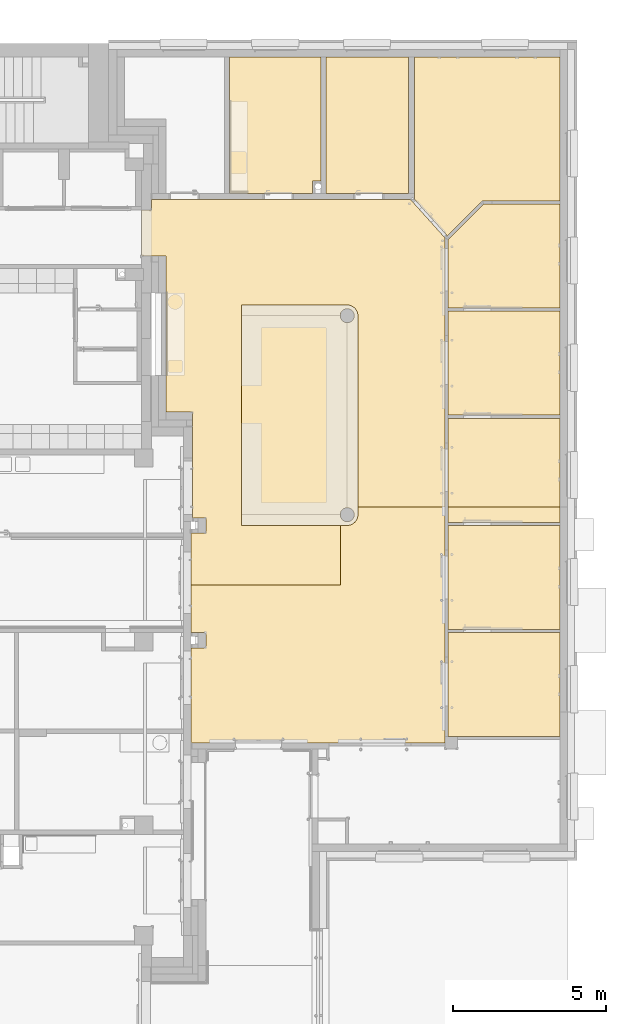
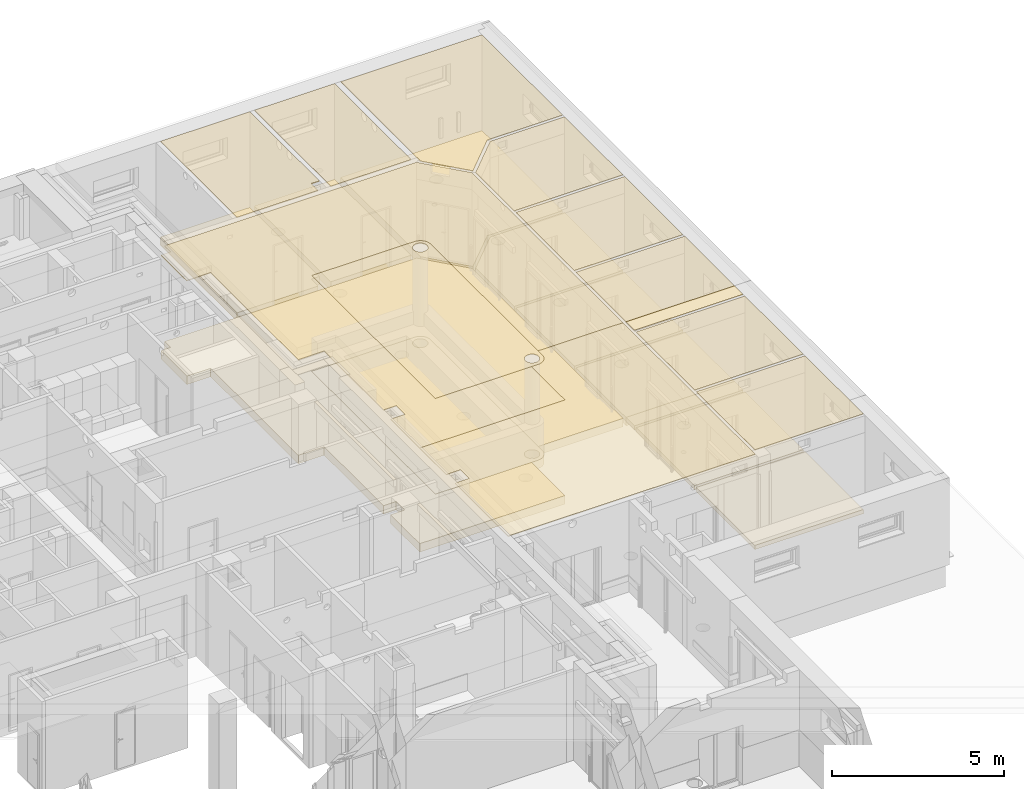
# One storey, part 131 of 140: 23 coverings.
"""IFC4 building model written with IfcOpenShell, lengths in metres."""

from ifc_helpers import new_model, entity, si_unit, converted_unit, derived_unit, frame, frame_2d, origin, origin_with_axes, place, context, subcontext, project, spatial, polyline, rectangle, outline, extrude, material, layer, layer_set, layer_usage, element, save


model = new_model("IFC4")

# Units and contexts
model_context = context("Model", 3, precision=1e-05, world=origin())
body_context = subcontext(model_context, "Body", "Model", "MODEL_VIEW")
ifc_project = project(units=[si_unit("LENGTHUNIT", "METRE"), si_unit("AREAUNIT", "SQUARE_METRE"), si_unit("VOLUMEUNIT", "CUBIC_METRE"), si_unit("MASSUNIT", "GRAM", prefix="KILO"), converted_unit("PLANEANGLEUNIT", "DEGREE", entity("IfcPlaneAngleMeasure", 0.0174532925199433), si_unit("PLANEANGLEUNIT", "RADIAN"), dimensions=[0, 0, 0, 0, 0, 0, 0]), derived_unit("THERMALTRANSMITTANCEUNIT", [(si_unit("POWERUNIT", "WATT"), 1), (si_unit("THERMODYNAMICTEMPERATUREUNIT", "KELVIN"), -1), (si_unit("LENGTHUNIT", "METRE"), -2)]), derived_unit("VOLUMETRICFLOWRATEUNIT", [(si_unit("LENGTHUNIT", "METRE"), 3), (converted_unit("TIMEUNIT", "hour", entity("IfcTimeMeasure", 3600.0), si_unit("TIMEUNIT", "SECOND"), dimensions=[0, 0, 1, 0, 0, 0, 0]), -1), (si_unit("LENGTHUNIT", "METRE"), -1)])], contexts=[model_context])

# Site, building, storey, space
site_placement = place(None, origin())
site = spatial("IfcSite", under=ifc_project, at=site_placement, Name="3. ASŘ", CompositionType="ELEMENT")
building_placement = place(site_placement, origin())
building = spatial("IfcBuilding", under=site, at=building_placement, Name="Pavilon C", CompositionType="ELEMENT")
storey_placement = place(building_placement, origin())
storey = spatial("IfcBuildingStorey", under=building, at=storey_placement, Name="Půdorys 1.NP", CompositionType="ELEMENT", Elevation=0.0)
space_1_placement = place(storey_placement, frame((51.5, 9.89999999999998, -0.15)))
space_1 = spatial("IfcSpace", under=storey, at=space_1_placement, Name="1.08", CompositionType="ELEMENT")

# Covering
ifc_material_1 = material(Name="RASTR 3")
ifc_layer_1 = layer(ifc_material_1, 0.03)
ifc_layer_set_1 = layer_set([ifc_layer_1])
ifc_layer_usage_1 = layer_usage(ifc_layer_set_1, "AXIS3", "POSITIVE", 0.0)
covering_1_placement = place(space_1_placement, frame((0.0, 1.81898940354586e-15, 3.55)))
element("IfcCovering", 1, at=covering_1_placement, inside=space_1, material=ifc_layer_usage_1, PredefinedType="CEILING", context=body_context, shape_type="SweptSolid", body=[
    extrude(outline(polyline([(0.0, 2.54999999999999), (4.87888830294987, 2.54999999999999), (4.87888830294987, 0.599999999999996), (5.09999999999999, 0.599999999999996), (5.12388484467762, 0.599184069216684), (5.14765832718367, 0.596740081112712), (5.17120960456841, 0.592679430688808), (5.19442886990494, 0.587021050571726), (5.21720786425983, 0.579791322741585), (5.23944038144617, 0.571023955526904), (5.26102276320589, 0.560759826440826), (5.28185438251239, 0.549046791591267), (5.30183811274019, 0.535939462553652), (5.3208807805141, 0.521498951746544), (5.33889360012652, 0.505792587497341), (5.35579258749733, 0.488893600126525), (5.37149895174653, 0.470880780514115), (5.38593946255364, 0.451838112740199), (5.39904679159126, 0.431854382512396), (5.41075982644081, 0.4110227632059), (5.42102395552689, 0.38944038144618), (5.42979132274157, 0.367207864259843), (5.43702105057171, 0.344428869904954), (5.4426794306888, 0.321209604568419), (5.4467400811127, 0.297658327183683), (5.44918406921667, 0.273884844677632), (5.44999999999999, 0.249999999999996), (5.44999999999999, 0.0), (8.29999999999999, 0.0), (8.29999999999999, 7.7), (0.0, 7.7), (0.0, 4.59999999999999), (0.48, 4.59999999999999), (0.48, 4.09999999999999), (0.0, 4.09999999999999), (0.0, 2.54999999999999)])), frame((0.0, 7.7, 0.0), z_axis=(0.0, 0.0, -1.0), x_axis=(1.0, 0.0, 0.0)), (0.0, 0.0, 1.0), 0.03),
])

# Space
space_2_placement = place(storey_placement, frame((53.15, 17.0, -0.3)))
space_2 = spatial("IfcSpace", under=storey, at=space_2_placement, Name="1.09", CompositionType="ELEMENT")

# Coverings
ifc_material_2 = material()
ifc_layer_2 = layer(ifc_material_2, 0.295)
ifc_material_3 = material(Name="ELEKTROSTATICKÝ VINYL")
ifc_layer_3 = layer(ifc_material_3, 0.005)
ifc_layer_set_2 = layer_set([ifc_layer_2, ifc_layer_3])
ifc_layer_usage_2 = layer_usage(ifc_layer_set_2, "AXIS3", "POSITIVE", 0.0)
covering_2_placement = place(space_2_placement, origin())
element("IfcCovering", 2, at=covering_2_placement, inside=space_2, material=ifc_layer_usage_2, PredefinedType="FLOORING", context=body_context, shape_type="SweptSolid", body=[
    extrude(outline(polyline([(3.52120960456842, 0.00732056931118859), (3.54442886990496, 0.0129789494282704), (3.56720786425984, 0.0202086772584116), (3.58944038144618, 0.0289760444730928), (3.6110227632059, 0.0392401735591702), (3.6318543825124, 0.0509532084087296), (3.6518381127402, 0.0640605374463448), (3.67088078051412, 0.0785010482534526), (3.68889360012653, 0.0942074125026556), (3.70579258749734, 0.111106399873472), (3.72149895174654, 0.129119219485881), (3.73593946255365, 0.148161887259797), (3.74904679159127, 0.1681456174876), (3.76075982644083, 0.188977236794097), (3.77102395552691, 0.210559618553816), (3.77979132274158, 0.232792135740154), (3.78702105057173, 0.255571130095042), (3.79267943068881, 0.278790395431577), (3.79674008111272, 0.302341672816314), (3.79918406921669, 0.326115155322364), (3.8, 0.35), (3.8, 6.85), (3.79918406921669, 6.87388484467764), (3.79674008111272, 6.89765832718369), (3.79267943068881, 6.92120960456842), (3.78702105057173, 6.94442886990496), (3.77979132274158, 6.96720786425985), (3.77102395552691, 6.98944038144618), (3.76075982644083, 7.0110227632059), (3.74904679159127, 7.0318543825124), (3.73593946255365, 7.0518381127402), (3.72149895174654, 7.07088078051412), (3.70579258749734, 7.08889360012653), (3.68889360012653, 7.10579258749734), (3.67088078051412, 7.12149895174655), (3.6518381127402, 7.13593946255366), (3.6318543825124, 7.14904679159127), (3.6110227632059, 7.16075982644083), (3.58944038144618, 7.17102395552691), (3.56720786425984, 7.17979132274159), (3.54442886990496, 7.18702105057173), (3.52120960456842, 7.19267943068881), (3.49765832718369, 7.19674008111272), (3.47388484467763, 7.19918406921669), (3.45, 7.2), (0.0, 7.2), (0.0, 7.27595761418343e-15), (3.45, 0.0), (3.47388484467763, 0.000815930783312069), (3.49765832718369, 0.00325991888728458), (3.52120960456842, 0.00732056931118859)]), holes=[polyline([(3.24556191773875, 6.75466895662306), (3.23211372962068, 6.79161754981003), (3.22528590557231, 6.83034006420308), (3.22528590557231, 6.86965993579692), (3.23211372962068, 6.90838245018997), (3.24556191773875, 6.94533104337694), (3.26522185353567, 6.97938305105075), (3.29049617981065, 7.00950382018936), (3.32061694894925, 7.03477814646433), (3.35466895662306, 7.05443808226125), (3.39161754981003, 7.06788627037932), (3.43034006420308, 7.07471409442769), (3.46965993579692, 7.07471409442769), (3.50838245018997, 7.06788627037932), (3.54533104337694, 7.05443808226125), (3.57938305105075, 7.03477814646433), (3.60950382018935, 7.00950382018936), (3.63477814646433, 6.97938305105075), (3.65443808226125, 6.94533104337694), (3.66788627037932, 6.90838245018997), (3.67471409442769, 6.86965993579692), (3.67471409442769, 6.83034006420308), (3.66788627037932, 6.79161754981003), (3.65443808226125, 6.75466895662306), (3.63477814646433, 6.72061694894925), (3.60950382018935, 6.69049617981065), (3.57938305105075, 6.66522185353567), (3.54533104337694, 6.64556191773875), (3.50838245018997, 6.63211372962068), (3.46965993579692, 6.62528590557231), (3.43034006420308, 6.62528590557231), (3.39161754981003, 6.63211372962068), (3.35466895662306, 6.64556191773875), (3.32061694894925, 6.66522185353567), (3.29049617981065, 6.69049617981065), (3.26522185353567, 6.72061694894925), (3.24556191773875, 6.75466895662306)]), polyline([(3.23211372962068, 0.291617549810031), (3.22528590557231, 0.330340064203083), (3.22528590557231, 0.369659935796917), (3.23211372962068, 0.408382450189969), (3.24556191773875, 0.445331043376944), (3.26522185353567, 0.479383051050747), (3.29049617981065, 0.509503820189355), (3.32061694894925, 0.534778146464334), (3.35466895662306, 0.554438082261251), (3.39161754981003, 0.56788627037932), (3.43034006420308, 0.574714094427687), (3.46965993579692, 0.574714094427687), (3.50838245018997, 0.56788627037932), (3.54533104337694, 0.554438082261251), (3.57938305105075, 0.534778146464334), (3.60950382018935, 0.509503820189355), (3.63477814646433, 0.479383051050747), (3.65443808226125, 0.445331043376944), (3.66788627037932, 0.408382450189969), (3.67471409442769, 0.369659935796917), (3.67471409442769, 0.330340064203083), (3.66788627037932, 0.291617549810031), (3.65443808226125, 0.254668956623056), (3.63477814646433, 0.220616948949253), (3.60950382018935, 0.190496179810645), (3.57938305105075, 0.165221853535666), (3.54533104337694, 0.145561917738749), (3.50838245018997, 0.13211372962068), (3.46965993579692, 0.125285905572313), (3.43034006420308, 0.125285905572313), (3.39161754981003, 0.13211372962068), (3.35466895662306, 0.145561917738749), (3.32061694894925, 0.165221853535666), (3.29049617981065, 0.190496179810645), (3.26522185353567, 0.220616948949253), (3.24556191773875, 0.254668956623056), (3.23211372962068, 0.291617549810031)])]), origin_with_axes(), (0.0, 0.0, 1.0), 0.3),
])
ifc_material_4 = material(Name="RASTR 3")
ifc_layer_4 = layer(ifc_material_4, 0.03)
ifc_layer_set_3 = layer_set([ifc_layer_4])
ifc_layer_usage_3 = layer_usage(ifc_layer_set_3, "AXIS3", "POSITIVE", 0.0)
covering_3_placement = place(space_2_placement, frame((0.0, 0.0, 3.7)))
element("IfcCovering", 3, at=covering_3_placement, inside=space_2, material=ifc_layer_usage_3, PredefinedType="CEILING", context=body_context, shape_type="SweptSolid", body=[
    extrude(outline(polyline([(3.52120960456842, 7.19267943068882), (3.49765832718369, 7.19674008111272), (3.47388484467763, 7.19918406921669), (3.45, 7.2), (0.0, 7.2), (0.0, 0.0), (3.45, 3.63797880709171e-15), (3.47388484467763, 0.000815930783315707), (3.49765832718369, 0.00325991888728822), (3.52120960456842, 0.00732056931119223), (3.54442886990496, 0.0129789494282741), (3.56720786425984, 0.0202086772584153), (3.58944038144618, 0.0289760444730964), (3.6110227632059, 0.0392401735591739), (3.6318543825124, 0.0509532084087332), (3.6518381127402, 0.0640605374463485), (3.67088078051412, 0.0785010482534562), (3.68889360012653, 0.0942074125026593), (3.70579258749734, 0.111106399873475), (3.72149895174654, 0.129119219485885), (3.73593946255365, 0.148161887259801), (3.74904679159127, 0.1681456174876), (3.76075982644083, 0.1889772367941), (3.77102395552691, 0.21055961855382), (3.77979132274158, 0.232792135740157), (3.78702105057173, 0.255571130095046), (3.79267943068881, 0.278790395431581), (3.79674008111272, 0.302341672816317), (3.79918406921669, 0.326115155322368), (3.8, 0.350000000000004), (3.8, 6.85), (3.79918406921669, 6.87388484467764), (3.79674008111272, 6.89765832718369), (3.79267943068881, 6.92120960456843), (3.78702105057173, 6.94442886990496), (3.77979132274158, 6.96720786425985), (3.77102395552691, 6.98944038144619), (3.76075982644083, 7.01102276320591), (3.74904679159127, 7.0318543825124), (3.73593946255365, 7.05183811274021), (3.72149895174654, 7.07088078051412), (3.70579258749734, 7.08889360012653), (3.68889360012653, 7.10579258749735), (3.67088078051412, 7.12149895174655), (3.6518381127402, 7.13593946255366), (3.6318543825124, 7.14904679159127), (3.6110227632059, 7.16075982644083), (3.58944038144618, 7.17102395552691), (3.56720786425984, 7.17979132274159), (3.54442886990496, 7.18702105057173), (3.52120960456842, 7.19267943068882)]), holes=[polyline([(3.23211372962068, 6.90838245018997), (3.24556191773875, 6.94533104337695), (3.26522185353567, 6.97938305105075), (3.29049617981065, 7.00950382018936), (3.32061694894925, 7.03477814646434), (3.35466895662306, 7.05443808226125), (3.39161754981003, 7.06788627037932), (3.43034006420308, 7.07471409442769), (3.46965993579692, 7.07471409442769), (3.50838245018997, 7.06788627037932), (3.54533104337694, 7.05443808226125), (3.57938305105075, 7.03477814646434), (3.60950382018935, 7.00950382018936), (3.63477814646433, 6.97938305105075), (3.65443808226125, 6.94533104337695), (3.66788627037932, 6.90838245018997), (3.67471409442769, 6.86965993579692), (3.67471409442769, 6.83034006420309), (3.66788627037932, 6.79161754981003), (3.65443808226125, 6.75466895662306), (3.63477814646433, 6.72061694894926), (3.60950382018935, 6.69049617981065), (3.57938305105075, 6.66522185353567), (3.54533104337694, 6.64556191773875), (3.50838245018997, 6.63211372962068), (3.46965993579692, 6.62528590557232), (3.43034006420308, 6.62528590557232), (3.39161754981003, 6.63211372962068), (3.35466895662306, 6.64556191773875), (3.32061694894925, 6.66522185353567), (3.29049617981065, 6.69049617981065), (3.26522185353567, 6.72061694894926), (3.24556191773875, 6.75466895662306), (3.23211372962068, 6.79161754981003), (3.22528590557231, 6.83034006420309), (3.22528590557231, 6.86965993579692), (3.23211372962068, 6.90838245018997)]), polyline([(3.24556191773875, 0.445331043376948), (3.26522185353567, 0.479383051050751), (3.29049617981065, 0.509503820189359), (3.32061694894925, 0.534778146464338), (3.35466895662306, 0.554438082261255), (3.39161754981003, 0.567886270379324), (3.43034006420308, 0.574714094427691), (3.46965993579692, 0.574714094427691), (3.50838245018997, 0.567886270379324), (3.54533104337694, 0.554438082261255), (3.57938305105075, 0.534778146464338), (3.60950382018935, 0.509503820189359), (3.63477814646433, 0.479383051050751), (3.65443808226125, 0.445331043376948), (3.66788627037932, 0.408382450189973), (3.67471409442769, 0.369659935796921), (3.67471409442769, 0.330340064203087), (3.66788627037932, 0.291617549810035), (3.65443808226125, 0.25466895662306), (3.63477814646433, 0.220616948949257), (3.60950382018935, 0.190496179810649), (3.57938305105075, 0.16522185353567), (3.54533104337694, 0.145561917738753), (3.50838245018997, 0.132113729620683), (3.46965993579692, 0.125285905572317), (3.43034006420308, 0.125285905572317), (3.39161754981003, 0.132113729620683), (3.35466895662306, 0.145561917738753), (3.32061694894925, 0.16522185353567), (3.29049617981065, 0.190496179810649), (3.26522185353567, 0.220616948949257), (3.24556191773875, 0.25466895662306), (3.23211372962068, 0.291617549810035), (3.22528590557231, 0.330340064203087), (3.22528590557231, 0.369659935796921), (3.23211372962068, 0.408382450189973), (3.24556191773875, 0.445331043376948)])]), frame((0.0, 7.2, 0.0), z_axis=(0.0, 0.0, -1.0), x_axis=(1.0, 0.0, 0.0)), (0.0, 0.0, 1.0), 0.03),
])

# Space
space_3_placement = place(storey_placement, frame((59.9, 10.1, -0.15)))
space_3 = spatial("IfcSpace", under=storey, at=space_3_placement, Name="1.11", CompositionType="ELEMENT")

# Coverings
ifc_material_5 = material()
ifc_layer_5 = layer(ifc_material_5, 0.145)
ifc_material_6 = material(Name="ELEKTROSTATICKÝ VINYL")
ifc_layer_6 = layer(ifc_material_6, 0.005)
ifc_layer_set_4 = layer_set([ifc_layer_5, ifc_layer_6])
ifc_layer_usage_4 = layer_usage(ifc_layer_set_4, "AXIS3", "POSITIVE", 0.0)
covering_4_placement = place(space_3_placement, origin())
element("IfcCovering", 4, at=covering_4_placement, inside=space_3, material=ifc_layer_usage_4, PredefinedType="FLOORING", context=body_context, shape_type="SweptSolid", body=[
    extrude(rectangle(XDim=3.4, YDim=3.65, at=frame_2d((-1.825, 1.7), x_axis=(0.0, 1.0))), frame((3.65, 0.0, 0.0), z_axis=(0.0, 0.0, 1.0), x_axis=(1.0, 0.0, 0.0)), (0.0, 0.0, 1.0), 0.15),
])
ifc_material_7 = material(Name="RASTR 3")
ifc_layer_7 = layer(ifc_material_7, 0.03)
ifc_layer_set_5 = layer_set([ifc_layer_7])
ifc_layer_usage_5 = layer_usage(ifc_layer_set_5, "AXIS3", "POSITIVE", 0.0)
covering_5_placement = place(space_3_placement, frame((0.0, 0.0, 3.55)))
element("IfcCovering", 5, at=covering_5_placement, inside=space_3, material=ifc_layer_usage_5, PredefinedType="CEILING", context=body_context, shape_type="SweptSolid", body=[
    extrude(rectangle(XDim=3.4, YDim=3.65, at=frame_2d((-1.825, 1.7), x_axis=(0.0, 1.0))), frame((3.65, 3.4, 0.0), z_axis=(0.0, 0.0, -1.0), x_axis=(1.0, 0.0, 0.0)), (0.0, 0.0, 1.0), 0.03),
])

# Space
space_4_placement = place(storey_placement, frame((59.9, 13.6, -0.15)))
space_4 = spatial("IfcSpace", under=storey, at=space_4_placement, Name="1.12", CompositionType="ELEMENT")

# Coverings
ifc_material_8 = material()
ifc_layer_8 = layer(ifc_material_8, 0.145)
ifc_material_9 = material(Name="ELEKTROSTATICKÝ VINYL")
ifc_layer_9 = layer(ifc_material_9, 0.005)
ifc_layer_set_6 = layer_set([ifc_layer_8, ifc_layer_9])
ifc_layer_usage_6 = layer_usage(ifc_layer_set_6, "AXIS3", "POSITIVE", 0.0)
covering_6_placement = place(space_4_placement, origin())
element("IfcCovering", 6, at=covering_6_placement, inside=space_4, material=ifc_layer_usage_6, PredefinedType="FLOORING", context=body_context, shape_type="SweptSolid", body=[
    extrude(rectangle(XDim=3.65, YDim=3.4, at=frame_2d((-1.825, -1.7), x_axis=(-1.0, 0.0))), frame((3.65, 3.4, 0.0), z_axis=(0.0, 0.0, 1.0), x_axis=(1.0, 0.0, 0.0)), (0.0, 0.0, 1.0), 0.15),
])
ifc_material_10 = material(Name="RASTR 3")
ifc_layer_10 = layer(ifc_material_10, 0.03)
ifc_layer_set_7 = layer_set([ifc_layer_10])
ifc_layer_usage_7 = layer_usage(ifc_layer_set_7, "AXIS3", "POSITIVE", 0.0)
covering_7_placement = place(space_4_placement, frame((0.0, 0.0, 3.55)))
element("IfcCovering", 7, at=covering_7_placement, inside=space_4, material=ifc_layer_usage_7, PredefinedType="CEILING", context=body_context, shape_type="SweptSolid", body=[
    extrude(rectangle(XDim=3.65, YDim=3.4, at=frame_2d((1.825, 1.7), x_axis=(1.0, 0.0))), frame((0.0, 3.4, 0.0), z_axis=(0.0, 0.0, -1.0), x_axis=(1.0, 0.0, 0.0)), (0.0, 0.0, 1.0), 0.03),
])

# Space
space_5_placement = place(storey_placement, frame((59.9, 17.6, -0.3)))
space_5 = spatial("IfcSpace", under=storey, at=space_5_placement, Name="1.13", CompositionType="ELEMENT")

# Coverings
ifc_material_11 = material()
ifc_layer_11 = layer(ifc_material_11, 0.295)
ifc_material_12 = material(Name="ELEKTROSTATICKÝ VINYL")
ifc_layer_12 = layer(ifc_material_12, 0.005)
ifc_layer_set_8 = layer_set([ifc_layer_11, ifc_layer_12])
ifc_layer_usage_8 = layer_usage(ifc_layer_set_8, "AXIS3", "POSITIVE", 0.0)
covering_8_placement = place(space_5_placement, frame((0.0, 3.63797880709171e-15, 0.0)))
element("IfcCovering", 8, at=covering_8_placement, inside=space_5, material=ifc_layer_usage_8, Name="I.P7", PredefinedType="FLOORING", context=body_context, shape_type="SweptSolid", body=[
    extrude(rectangle(XDim=3.65, YDim=2.9, at=frame_2d((-1.825, -1.45), x_axis=(-1.0, 0.0))), frame((3.65, 2.9, 0.0), z_axis=(0.0, 0.0, 1.0), x_axis=(1.0, 0.0, 0.0)), (0.0, 0.0, 1.0), 0.3),
])
ifc_material_13 = material(Name="RASTR 3")
ifc_layer_13 = layer(ifc_material_13, 0.03)
ifc_layer_set_9 = layer_set([ifc_layer_13])
ifc_layer_usage_9 = layer_usage(ifc_layer_set_9, "AXIS3", "POSITIVE", 0.0)
covering_9_placement = place(space_5_placement, frame((0.0, 3.63797880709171e-15, 3.7)))
element("IfcCovering", 9, at=covering_9_placement, inside=space_5, material=ifc_layer_usage_9, PredefinedType="CEILING", context=body_context, shape_type="SweptSolid", body=[
    extrude(rectangle(XDim=3.65, YDim=2.9, at=frame_2d((1.825, 1.45), x_axis=(1.0, 0.0))), frame((0.0, 2.9, 0.0), z_axis=(0.0, 0.0, -1.0), x_axis=(1.0, 0.0, 0.0)), (0.0, 0.0, 1.0), 0.03),
])

# Space
space_6_placement = place(storey_placement, frame((59.9, 20.6, -0.3)))
space_6 = spatial("IfcSpace", under=storey, at=space_6_placement, Name="1.14", CompositionType="ELEMENT")

# Coverings
ifc_material_14 = material()
ifc_layer_14 = layer(ifc_material_14, 0.295)
ifc_material_15 = material(Name="ELEKTROSTATICKÝ VINYL")
ifc_layer_15 = layer(ifc_material_15, 0.005)
ifc_layer_set_10 = layer_set([ifc_layer_14, ifc_layer_15])
ifc_layer_usage_10 = layer_usage(ifc_layer_set_10, "AXIS3", "POSITIVE", 0.0)
covering_10_placement = place(space_6_placement, origin())
element("IfcCovering", 10, at=covering_10_placement, inside=space_6, material=ifc_layer_usage_10, PredefinedType="FLOORING", context=body_context, shape_type="SweptSolid", body=[
    extrude(rectangle(XDim=3.65, YDim=3.4, at=frame_2d((-1.825, -1.7), x_axis=(-1.0, 0.0))), frame((3.65, 3.4, 0.0), z_axis=(0.0, 0.0, 1.0), x_axis=(1.0, 0.0, 0.0)), (0.0, 0.0, 1.0), 0.3),
])
ifc_material_16 = material(Name="RASTR 3")
ifc_layer_16 = layer(ifc_material_16, 0.03)
ifc_layer_set_11 = layer_set([ifc_layer_16])
ifc_layer_usage_11 = layer_usage(ifc_layer_set_11, "AXIS3", "POSITIVE", 0.0)
covering_11_placement = place(space_6_placement, frame((0.0, 0.0, 3.7)))
element("IfcCovering", 11, at=covering_11_placement, inside=space_6, material=ifc_layer_usage_11, PredefinedType="CEILING", context=body_context, shape_type="SweptSolid", body=[
    extrude(rectangle(XDim=3.65, YDim=3.4, at=frame_2d((1.825, 1.7), x_axis=(1.0, 0.0))), frame((0.0, 3.4, 0.0), z_axis=(0.0, 0.0, -1.0), x_axis=(1.0, 0.0, 0.0)), (0.0, 0.0, 1.0), 0.03),
])

# Space
space_7_placement = place(storey_placement, frame((59.9, 24.1, -0.3)))
space_7 = spatial("IfcSpace", under=storey, at=space_7_placement, Name="1.15", CompositionType="ELEMENT")

# Coverings
ifc_material_17 = material()
ifc_layer_17 = layer(ifc_material_17, 0.295)
ifc_material_18 = material(Name="ELEKTROSTATICKÝ VINYL")
ifc_layer_18 = layer(ifc_material_18, 0.005)
ifc_layer_set_12 = layer_set([ifc_layer_17, ifc_layer_18])
ifc_layer_usage_12 = layer_usage(ifc_layer_set_12, "AXIS3", "POSITIVE", 0.0)
covering_12_placement = place(space_7_placement, origin())
element("IfcCovering", 12, at=covering_12_placement, inside=space_7, material=ifc_layer_usage_12, PredefinedType="FLOORING", context=body_context, shape_type="SweptSolid", body=[
    extrude(outline(polyline([(1.15416305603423, 3.4), (0.0, 2.24583694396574), (0.0, 0.0), (3.65, 0.0), (3.65, 3.4), (1.15416305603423, 3.4)])), origin_with_axes(), (0.0, 0.0, 1.0), 0.3),
])
ifc_material_19 = material(Name="RASTR 3")
ifc_layer_19 = layer(ifc_material_19, 0.03)
ifc_layer_set_13 = layer_set([ifc_layer_19])
ifc_layer_usage_13 = layer_usage(ifc_layer_set_13, "AXIS3", "POSITIVE", 0.0)
covering_13_placement = place(space_7_placement, frame((0.0, 0.0, 3.7)))
element("IfcCovering", 13, at=covering_13_placement, inside=space_7, material=ifc_layer_usage_13, PredefinedType="CEILING", context=body_context, shape_type="SweptSolid", body=[
    extrude(outline(polyline([(0.0, 1.15416305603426), (1.15416305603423, 0.0), (3.65, 0.0), (3.65, 3.4), (0.0, 3.4), (0.0, 1.15416305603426)])), frame((0.0, 3.4, 0.0), z_axis=(0.0, 0.0, -1.0), x_axis=(1.0, 0.0, 0.0)), (0.0, 0.0, 1.0), 0.03),
])

# Space
space_8_placement = place(storey_placement, frame((58.8, 26.4580705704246, -0.3)))
space_8 = spatial("IfcSpace", under=storey, at=space_8_placement, Name="1.16", CompositionType="ELEMENT")

# Coverings
ifc_material_20 = material()
ifc_layer_20 = layer(ifc_material_20, 0.295)
ifc_material_21 = material(Name="ELEKTROSTATICKÝ VINYL")
ifc_layer_21 = layer(ifc_material_21, 0.005)
ifc_layer_set_14 = layer_set([ifc_layer_20, ifc_layer_21])
ifc_layer_usage_14 = layer_usage(ifc_layer_set_14, "AXIS3", "POSITIVE", 0.0)
covering_14_placement = place(space_8_placement, frame((0.0, 3.63797880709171e-15, 0.0)))
element("IfcCovering", 14, at=covering_14_placement, inside=space_8, material=ifc_layer_usage_14, PredefinedType="FLOORING", context=body_context, shape_type="SweptSolid", body=[
    extrude(outline(polyline([(4.74999999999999, 5.84192942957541), (0.0, 5.84192942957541), (0.0, 1.19192942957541), (1.07081227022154, 0.0), (2.21274169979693, 1.14192942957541), (4.74999999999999, 1.14192942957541), (4.74999999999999, 5.84192942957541)])), frame((0.0, -3.63797880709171e-15, 0.0), z_axis=(0.0, 0.0, 1.0), x_axis=(1.0, 0.0, 0.0)), (0.0, 0.0, 1.0), 0.3),
])
ifc_material_22 = material(Name="RASTR 3")
ifc_layer_22 = layer(ifc_material_22, 0.03)
ifc_layer_set_15 = layer_set([ifc_layer_22])
ifc_layer_usage_15 = layer_usage(ifc_layer_set_15, "AXIS3", "POSITIVE", 0.0)
covering_15_placement = place(space_8_placement, frame((0.0, 3.63797880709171e-15, 3.7)))
element("IfcCovering", 15, at=covering_15_placement, inside=space_8, material=ifc_layer_usage_15, PredefinedType="CEILING", context=body_context, shape_type="SweptSolid", body=[
    extrude(outline(polyline([(0.0, 0.0), (4.74999999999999, 0.0), (4.74999999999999, 4.7), (2.21274169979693, 4.7), (1.07081227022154, 5.84192942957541), (0.0, 4.65), (0.0, 0.0)])), frame((0.0, 5.84192942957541, 0.0), z_axis=(0.0, 0.0, -1.0), x_axis=(1.0, 0.0, 0.0)), (0.0, 0.0, 1.0), 0.03),
])

# Space
space_9_placement = place(storey_placement, frame((55.9, 27.85, -0.3)))
space_9 = spatial("IfcSpace", under=storey, at=space_9_placement, Name="1.17", CompositionType="ELEMENT")

# Coverings
ifc_material_23 = material()
ifc_layer_23 = layer(ifc_material_23, 0.295)
ifc_material_24 = material(Name="PŘÍRODNÍ LINOLEUM")
ifc_layer_24 = layer(ifc_material_24, 0.005)
ifc_layer_set_16 = layer_set([ifc_layer_23, ifc_layer_24])
ifc_layer_usage_16 = layer_usage(ifc_layer_set_16, "AXIS3", "POSITIVE", 0.0)
covering_16_placement = place(space_9_placement, origin())
element("IfcCovering", 16, at=covering_16_placement, inside=space_9, material=ifc_layer_usage_16, PredefinedType="FLOORING", context=body_context, shape_type="SweptSolid", body=[
    extrude(rectangle(XDim=2.7, YDim=4.45, at=frame_2d((-1.35, -2.225), x_axis=(-1.0, 0.0))), frame((2.7, 4.45, 0.0), z_axis=(0.0, 0.0, 1.0), x_axis=(1.0, 0.0, 0.0)), (0.0, 0.0, 1.0), 0.3),
])
ifc_material_25 = material(Name="RASTR 2")
ifc_layer_25 = layer(ifc_material_25, 0.03)
ifc_layer_set_17 = layer_set([ifc_layer_25])
ifc_layer_usage_17 = layer_usage(ifc_layer_set_17, "AXIS3", "POSITIVE", 0.0)
covering_17_placement = place(space_9_placement, frame((0.0, 0.0, 3.7)))
element("IfcCovering", 17, at=covering_17_placement, inside=space_9, material=ifc_layer_usage_17, PredefinedType="CEILING", context=body_context, shape_type="SweptSolid", body=[
    extrude(rectangle(XDim=2.7, YDim=4.45, at=frame_2d((1.35, 2.225), x_axis=(1.0, 0.0))), frame((0.0, 4.45, 0.0), z_axis=(0.0, 0.0, -1.0), x_axis=(1.0, 0.0, 0.0)), (0.0, 0.0, 1.0), 0.03),
])

# Space
space_10_placement = place(storey_placement, frame((52.75, 27.85, -0.3)))
space_10 = spatial("IfcSpace", under=storey, at=space_10_placement, Name="1.18", CompositionType="ELEMENT")

# Coverings
ifc_material_26 = material()
ifc_layer_26 = layer(ifc_material_26, 0.295)
ifc_material_27 = material(Name="PŘÍRODNÍ LINOLEUM")
ifc_layer_27 = layer(ifc_material_27, 0.005)
ifc_layer_set_18 = layer_set([ifc_layer_26, ifc_layer_27])
ifc_layer_usage_18 = layer_usage(ifc_layer_set_18, "AXIS3", "POSITIVE", 0.0)
covering_18_placement = place(space_10_placement, origin())
element("IfcCovering", 18, at=covering_18_placement, inside=space_10, material=ifc_layer_usage_18, PredefinedType="FLOORING", context=body_context, shape_type="SweptSolid", body=[
    extrude(outline(polyline([(2.725, 0.405), (3.0, 0.405), (3.0, 4.45), (0.0, 4.45), (0.0, 0.0), (2.725, 0.0), (2.725, 0.405)])), origin_with_axes(), (0.0, 0.0, 1.0), 0.3),
])
ifc_material_28 = material(Name="RASTR 1")
ifc_layer_28 = layer(ifc_material_28, 0.03)
ifc_layer_set_19 = layer_set([ifc_layer_28])
ifc_layer_usage_19 = layer_usage(ifc_layer_set_19, "AXIS3", "POSITIVE", 0.0)
covering_19_placement = place(space_10_placement, frame((0.0, 0.0, 3.7)))
element("IfcCovering", 19, at=covering_19_placement, inside=space_10, material=ifc_layer_usage_19, PredefinedType="CEILING", context=body_context, shape_type="SweptSolid", body=[
    extrude(outline(polyline([(3.0, 4.045), (2.725, 4.045), (2.725, 4.45), (0.0, 4.45), (0.0, 0.0), (3.0, 0.0), (3.0, 4.045)])), frame((0.0, 4.45, 0.0), z_axis=(0.0, 0.0, -1.0), x_axis=(1.0, 0.0, 0.0)), (0.0, 0.0, 1.0), 0.03),
])

# Space
space_11_placement = place(storey_placement, frame((49.88, 15.05, -0.3)))
space_11 = spatial("IfcSpace", under=storey, at=space_11_placement, Name="1.08", CompositionType="ELEMENT")

# Coverings
ifc_material_29 = material()
ifc_layer_29 = layer(ifc_material_29, 0.295)
ifc_material_30 = material(Name="ELEKTROSTATICKÝ VINYL")
ifc_layer_30 = layer(ifc_material_30, 0.005)
ifc_layer_set_20 = layer_set([ifc_layer_29, ifc_layer_30])
ifc_layer_usage_20 = layer_usage(ifc_layer_set_20, "AXIS3", "POSITIVE", 0.0)
covering_20_placement = place(space_11_placement, frame((0.0, 1.81898940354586e-15, 0.0)))
element("IfcCovering", 20, at=covering_20_placement, inside=space_11, material=ifc_layer_usage_20, Name="I.P7", PredefinedType="FLOORING", context=body_context, shape_type="SweptSolid", body=[
    extrude(outline(polyline([(0.32, 12.25), (0.0, 12.25), (0.0, 10.75), (0.8, 10.75), (0.8, 5.64999999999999), (1.67, 5.64999999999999), (1.67, 2.2), (2.1, 2.2), (2.1, 1.7), (1.62, 1.7), (1.62, 0.0), (6.49888830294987, 0.0), (6.49888830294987, 1.94999999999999), (3.26999999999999, 1.95), (3.26999999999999, 9.14999999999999), (6.71999999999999, 9.14999999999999), (6.74388484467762, 9.14918406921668), (6.76765832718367, 9.14674008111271), (6.79120960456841, 9.1426794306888), (6.81442886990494, 9.13702105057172), (6.83720786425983, 9.12979132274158), (6.85944038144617, 9.1210239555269), (6.88102276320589, 9.11075982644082), (6.90185438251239, 9.09904679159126), (6.92183811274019, 9.08593946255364), (6.9408807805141, 9.07149895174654), (6.95889360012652, 9.05579258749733), (6.97579258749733, 9.03889360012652), (6.99149895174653, 9.02088078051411), (7.00593946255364, 9.00183811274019), (7.01904679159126, 8.98185438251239), (7.03075982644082, 8.96102276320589), (7.04102395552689, 8.93944038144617), (7.04979132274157, 8.91720786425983), (7.05702105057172, 8.89442886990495), (7.0626794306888, 8.87120960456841), (7.0667400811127, 8.84765832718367), (7.06918406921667, 8.82388484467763), (7.06999999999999, 8.79999999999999), (7.06999999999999, 2.54999999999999), (9.91999999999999, 2.54999999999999), (9.91999999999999, 11.337258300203), (8.7855834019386, 12.6), (0.32, 12.6), (0.32, 12.25)])), frame((0.0, -1.81898940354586e-15, 0.0), z_axis=(0.0, 0.0, 1.0), x_axis=(1.0, 0.0, 0.0)), (0.0, 0.0, 1.0), 0.3),
])
ifc_material_31 = material(Name="RASTR 3")
ifc_layer_31 = layer(ifc_material_31, 0.03)
ifc_layer_set_21 = layer_set([ifc_layer_31])
ifc_layer_usage_21 = layer_usage(ifc_layer_set_21, "AXIS3", "POSITIVE", 0.0)
covering_21_placement = place(space_11_placement, frame((0.0, 1.81898940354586e-15, 3.7)))
element("IfcCovering", 21, at=covering_21_placement, inside=space_11, material=ifc_layer_usage_21, PredefinedType="CEILING", context=body_context, shape_type="SweptSolid", body=[
    extrude(outline(polyline([(0.0, 0.350000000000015), (0.32, 0.350000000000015), (0.32, 0.0), (8.7855834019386, 0.0), (9.91999999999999, 1.26274169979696), (9.91999999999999, 10.05), (7.06999999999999, 10.05), (7.06999999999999, 3.8), (7.06918406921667, 3.77611515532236), (7.0667400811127, 3.75234167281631), (7.0626794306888, 3.72879039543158), (7.05702105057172, 3.70557113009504), (7.04979132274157, 3.68279213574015), (7.04102395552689, 3.66055961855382), (7.03075982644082, 3.6389772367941), (7.01904679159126, 3.6181456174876), (7.00593946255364, 3.5981618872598), (6.99149895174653, 3.57911921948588), (6.97579258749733, 3.56110639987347), (6.95889360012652, 3.54420741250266), (6.9408807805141, 3.52850104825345), (6.92183811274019, 3.51406053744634), (6.90185438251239, 3.50095320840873), (6.88102276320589, 3.48924017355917), (6.85944038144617, 3.47897604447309), (6.83720786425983, 3.47020867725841), (6.81442886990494, 3.46297894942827), (6.79120960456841, 3.45732056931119), (6.76765832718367, 3.45325991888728), (6.74388484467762, 3.45081593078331), (6.71999999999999, 3.45), (3.26999999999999, 3.45), (3.26999999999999, 10.65), (6.49888830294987, 10.65), (6.49888830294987, 12.6), (1.62, 12.6), (1.62, 10.9), (2.1, 10.9), (2.1, 10.4), (1.67, 10.4), (1.67, 6.95), (0.8, 6.95), (0.8, 1.85000000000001), (0.0, 1.85000000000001), (0.0, 0.350000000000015)])), frame((0.0, 12.6, 0.0), z_axis=(0.0, 0.0, -1.0), x_axis=(1.0, 0.0, 0.0)), (0.0, 0.0, 1.0), 0.03),
])

# Space
space_12_placement = place(storey_placement, frame((59.9, 17.1, -0.15)))
space_12 = spatial("IfcSpace", under=storey, at=space_12_placement, Name="1.13", CompositionType="ELEMENT")

# Coverings
ifc_material_32 = material()
ifc_layer_32 = layer(ifc_material_32, 0.145)
ifc_material_33 = material(Name="ELEKTROSTATICKÝ VINYL")
ifc_layer_33 = layer(ifc_material_33, 0.005)
ifc_layer_set_22 = layer_set([ifc_layer_32, ifc_layer_33])
ifc_layer_usage_22 = layer_usage(ifc_layer_set_22, "AXIS3", "POSITIVE", 0.0)
covering_22_placement = place(space_12_placement, origin())
element("IfcCovering", 22, at=covering_22_placement, inside=space_12, material=ifc_layer_usage_22, Name="I.P9", PredefinedType="FLOORING", context=body_context, shape_type="SweptSolid", body=[
    extrude(rectangle(XDim=0.499999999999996, YDim=3.65, at=frame_2d((1.825, -0.249999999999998), x_axis=(0.0, -1.0))), frame((0.0, 0.499999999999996, 0.0), z_axis=(0.0, 0.0, 1.0), x_axis=(1.0, 0.0, 0.0)), (0.0, 0.0, 1.0), 0.15),
])
ifc_material_34 = material(Name="RASTR 3")
ifc_layer_34 = layer(ifc_material_34, 0.03)
ifc_layer_set_23 = layer_set([ifc_layer_34])
ifc_layer_usage_23 = layer_usage(ifc_layer_set_23, "AXIS3", "POSITIVE", 0.0)
covering_23_placement = place(space_12_placement, frame((0.0, 0.0, 3.55)))
element("IfcCovering", 23, at=covering_23_placement, inside=space_12, material=ifc_layer_usage_23, PredefinedType="CEILING", context=body_context, shape_type="SweptSolid", body=[
    extrude(rectangle(XDim=0.499999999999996, YDim=3.65, at=frame_2d((1.825, -0.249999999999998), x_axis=(0.0, -1.0))), frame((0.0, 0.0, 0.0), z_axis=(0.0, 0.0, -1.0), x_axis=(1.0, 0.0, 0.0)), (0.0, 0.0, 1.0), 0.03),
])

save(model, "model.ifc")
